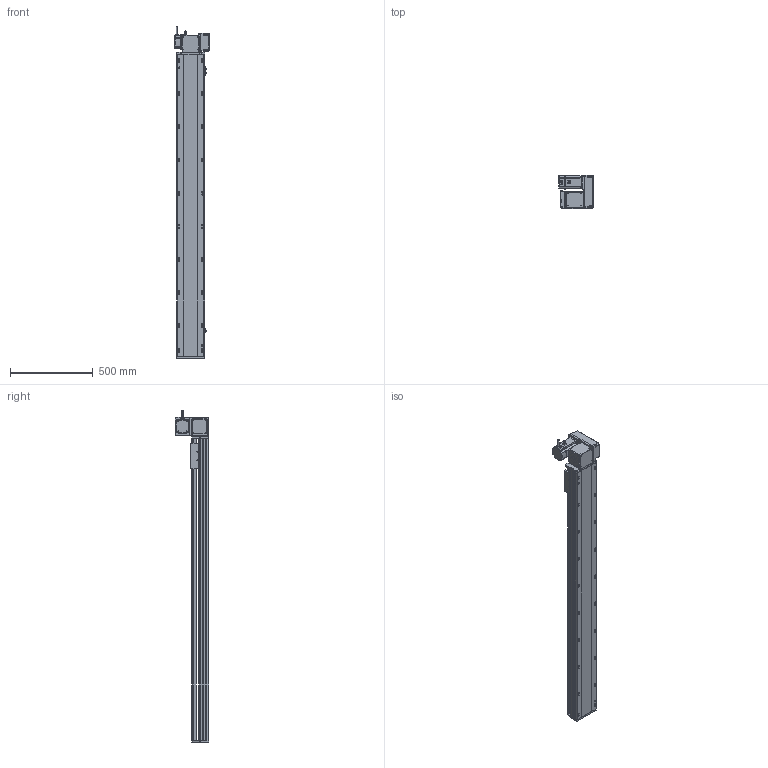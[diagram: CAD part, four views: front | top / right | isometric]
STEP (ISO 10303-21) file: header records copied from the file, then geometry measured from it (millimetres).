
FILE_DESCRIPTION (( 'STEP AP214' ), '1' );
FILE_NAME ('RTB17S-XX-1550-RW-M75-C4.STEP', '2025-12-12T02:39:17', ( '' ), ( '' ), 'SwSTEP 2.0', 'SolidWorks 2018', '' );
FILE_SCHEMA (( 'AUTOMOTIVE_DESIGN' ));
Length unit declared in the file: millimetre
Products named in the file (15): RTB22S-GY-018P^RTB17S-RW-々湍釱蚾饜-750W_RTB17S-XX-XX-RW-M75-C4; RMP17S-L-014-T20-P75--々湍釱^RTB17S-RW-々湍釱蚾饜-750W_RTB17S-XX-XX-RW-M75-C4; RTB22S-GY-005P^RTB17S-RW-々湍釱蚾饜-750W_RTB17S-XX-XX-RW-M75-C4; RTB17S-XX-1550-RW-M75-C4; EE672^RTB17S-XX-XX-RW-M75-C4; RTB22S-GY-017P^RTB17S-RW-々湍釱蚾饜-750W_RTB17S-XX-XX-RW-M75-C4; RTB17S-L-001-耜醱啣^RTB17S-XX-XX-RW-M75-C4; RTH13-BL-012覜茼え俋离^RTB17S-賑釱_RTB17S-XX-XX-RW-M75-C4; RTB22S-GY-008-M75--萇儂啣^RTB17S-RW-々湍釱蚾饜-750W_RTB17S-XX-XX-RW-M75-C4; RTB17-R-011菁釱^RTB17S-XX-XX-RW-M75-C4; RTB17S-賑釱^RTB17S-XX-XX-RW-M75-C4; RTB17S-L-004-賑釱^RTB17S-賑釱_RTB17S-XX-XX-RW-M75-C4; RTB17S-L-007奻裔^RTB17S-XX-XX-RW-M75-C4; RTB17S-RW-々湍釱蚾饜-750W^RTB17S-XX-XX-RW-M75-C4; 750W萇儂^RTB17S-XX-XX-RW-M75-C4
Assembly tree (17 placements, depth 3):
  RTB17S-XX-1550-RW-M75-C4
    RTB17-R-011菁釱^RTB17S-XX-XX-RW-M75-C4
    EE672^RTB17S-XX-XX-RW-M75-C4  x3
    RTB17S-L-001-耜醱啣^RTB17S-XX-XX-RW-M75-C4
    RTB17S-賑釱^RTB17S-XX-XX-RW-M75-C4
      RTB17S-L-004-賑釱^RTB17S-賑釱_RTB17S-XX-XX-RW-M75-C4
      RTH13-BL-012覜茼え俋离^RTB17S-賑釱_RTB17S-XX-XX-RW-M75-C4
    RTB17S-L-007奻裔^RTB17S-XX-XX-RW-M75-C4
    750W萇儂^RTB17S-XX-XX-RW-M75-C4
    RTB17S-RW-々湍釱蚾饜-750W^RTB17S-XX-XX-RW-M75-C4
      RMP17S-L-014-T20-P75--々湍釱^RTB17S-RW-々湍釱蚾饜-750W_RTB17S-XX-XX-RW-M75-C4
      RTB22S-GY-005P^RTB17S-RW-々湍釱蚾饜-750W_RTB17S-XX-XX-RW-M75-C4
      RTB22S-GY-017P^RTB17S-RW-々湍釱蚾饜-750W_RTB17S-XX-XX-RW-M75-C4  x2
      RTB22S-GY-008-M75--萇儂啣^RTB17S-RW-々湍釱蚾饜-750W_RTB17S-XX-XX-RW-M75-C4
      RTB22S-GY-018P^RTB17S-RW-々湍釱蚾饜-750W_RTB17S-XX-XX-RW-M75-C4
Bounding box: 207.4 x 201.5 x 2002.2 mm (x, y, z)
Volume: 15639276.4 mm3; surface area: 2746500.1 mm2
Topology: 17 solids, 17 shells, 2137 faces, 5944 edges, 3842 vertices
Faces by surface type: plane 976, cylinder 745, bspline 294, cone 110, sphere 8, torus 4
Entity records: 60406 total; most frequent: CARTESIAN_POINT 17808, ORIENTED_EDGE 8732, DIRECTION 8132, EDGE_CURVE 4366, AXIS2_PLACEMENT_3D 2862, VERTEX_POINT 2846, LINE 2408, VECTOR 2408
